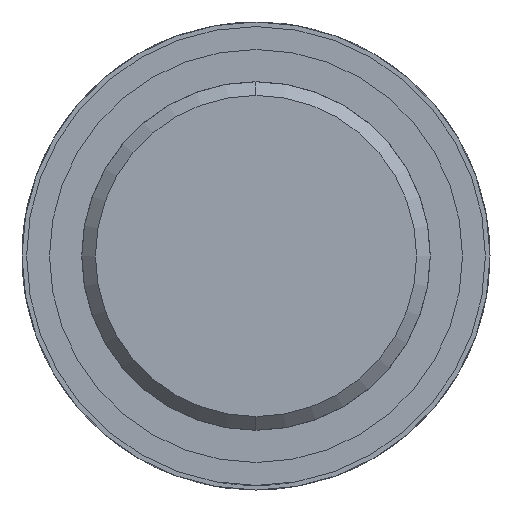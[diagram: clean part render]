
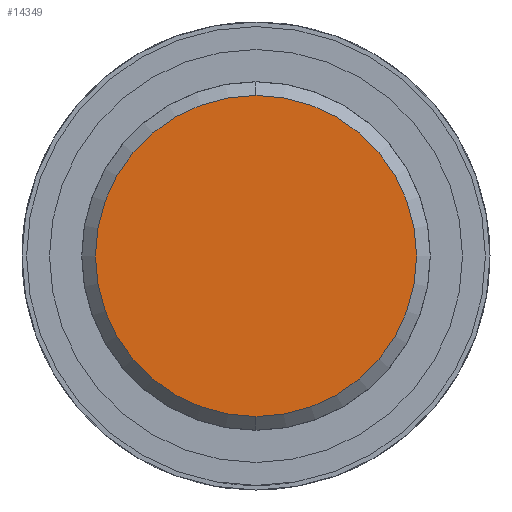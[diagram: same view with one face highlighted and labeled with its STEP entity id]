
A CAD part, left-side view. The second image highlights one B-rep face of the part: STEP entity #14349.
In plain terms, the highlighted planar face has unit normal (-1, 0, 0).
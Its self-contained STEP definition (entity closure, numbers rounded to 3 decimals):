
#114 = DIRECTION ( 'NONE',  ( 0., 0., -1. ) ) ;
#546 = CARTESIAN_POINT ( 'NONE',  ( -210., 0., 0. ) ) ;
#2443 = AXIS2_PLACEMENT_3D ( 'NONE', #13052, #15595, #114 ) ;
#2634 = DIRECTION ( 'NONE',  ( -1., 0., 0. ) ) ;
#2822 = DIRECTION ( 'NONE',  ( 0., 0., -1. ) ) ;
#3286 = EDGE_CURVE ( 'NONE', #15245, #16159, #17714, .T. ) ;
#4861 = AXIS2_PLACEMENT_3D ( 'NONE', #546, #14343, #2822 ) ;
#5055 = ORIENTED_EDGE ( 'NONE', *, *, #3286, .T. ) ;
#5266 = FACE_OUTER_BOUND ( 'NONE', #10807, .T. ) ;
#7116 = CARTESIAN_POINT ( 'NONE',  ( -210., 0., -17.5 ) ) ;
#8382 = CARTESIAN_POINT ( 'NONE',  ( -210., 0., 0. ) ) ;
#10618 = DIRECTION ( 'NONE',  ( 0., 0., -1. ) ) ;
#10807 = EDGE_LOOP ( 'NONE', ( #5055, #18641 ) ) ;
#11026 = PLANE ( 'NONE',  #4861 ) ;
#12407 = CIRCLE ( 'NONE', #2443, 17.5 ) ;
#13052 = CARTESIAN_POINT ( 'NONE',  ( -210., 0., 0. ) ) ;
#13567 = EDGE_CURVE ( 'NONE', #16159, #15245, #12407, .T. ) ;
#14343 = DIRECTION ( 'NONE',  ( 1., 0., 0. ) ) ;
#14349 = ADVANCED_FACE ( 'NONE', ( #5266 ), #11026, .F. ) ;
#15245 = VERTEX_POINT ( 'NONE', #7116 ) ;
#15595 = DIRECTION ( 'NONE',  ( -1., 0., 0. ) ) ;
#15792 = CARTESIAN_POINT ( 'NONE',  ( -210., 0., 17.5 ) ) ;
#16159 = VERTEX_POINT ( 'NONE', #15792 ) ;
#17714 = CIRCLE ( 'NONE', #18328, 17.5 ) ;
#18328 = AXIS2_PLACEMENT_3D ( 'NONE', #8382, #2634, #10618 ) ;
#18641 = ORIENTED_EDGE ( 'NONE', *, *, #13567, .T. ) ;
